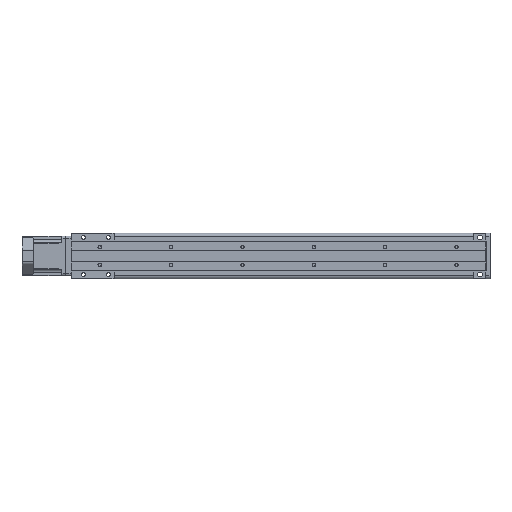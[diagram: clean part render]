
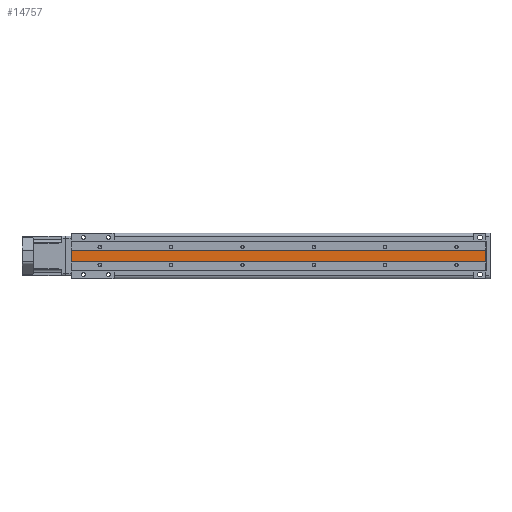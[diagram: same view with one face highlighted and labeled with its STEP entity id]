
A CAD part, front view. The second image highlights one B-rep face of the part: STEP entity #14757.
In plain terms, the highlighted planar face has unit normal (0, -1, 0).
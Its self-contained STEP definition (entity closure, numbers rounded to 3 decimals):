
#610=PLANE('',#24495);
#2104=VERTEX_POINT('',#20643);
#2105=VERTEX_POINT('',#20645);
#2106=VERTEX_POINT('',#20649);
#2107=VERTEX_POINT('',#20651);
#3371=VECTOR('',#16552,1.);
#3373=VECTOR('',#16555,1.);
#3374=VECTOR('',#16556,1.);
#3375=VECTOR('',#16557,1.);
#4917=LINE('',#20644,#3371);
#4919=LINE('',#20648,#3373);
#4920=LINE('',#20650,#3374);
#4921=LINE('',#20652,#3375);
#6676=EDGE_CURVE('',#2105,#2104,#4917,.T.);
#6678=EDGE_CURVE('',#2104,#2106,#4919,.T.);
#6679=EDGE_CURVE('',#2107,#2106,#4920,.T.);
#6680=EDGE_CURVE('',#2107,#2105,#4921,.T.);
#9041=ORIENTED_EDGE('',*,*,#6678,.T.);
#9042=ORIENTED_EDGE('',*,*,#6679,.F.);
#9043=ORIENTED_EDGE('',*,*,#6680,.T.);
#9044=ORIENTED_EDGE('',*,*,#6676,.T.);
#12855=EDGE_LOOP('',(#9041,#9042,#9043,#9044));
#13814=FACE_BOUND('',#12855,.T.);
#14757=ADVANCED_FACE('',(#13814),#610,.T.);
#16552=DIRECTION('',(1.,0.,0.));
#16554=DIRECTION('',(0.,-1.,0.));
#16555=DIRECTION('',(0.,0.,1.));
#16556=DIRECTION('',(1.,0.,0.));
#16557=DIRECTION('',(0.,0.,-1.));
#20643=CARTESIAN_POINT('',(529.,0.3,-8.));
#20644=CARTESIAN_POINT('',(-52.,0.3,-8.));
#20645=CARTESIAN_POINT('',(-52.,0.3,-8.));
#20647=CARTESIAN_POINT('',(-52.,0.3,-8.));
#20648=CARTESIAN_POINT('',(529.,0.3,7.7));
#20649=CARTESIAN_POINT('',(529.,0.3,7.7));
#20650=CARTESIAN_POINT('',(-52.,0.3,7.7));
#20651=CARTESIAN_POINT('',(-52.,0.3,7.7));
#20652=CARTESIAN_POINT('',(-52.,0.3,7.7));
#24495=AXIS2_PLACEMENT_3D('',#20647,#16554,$);
